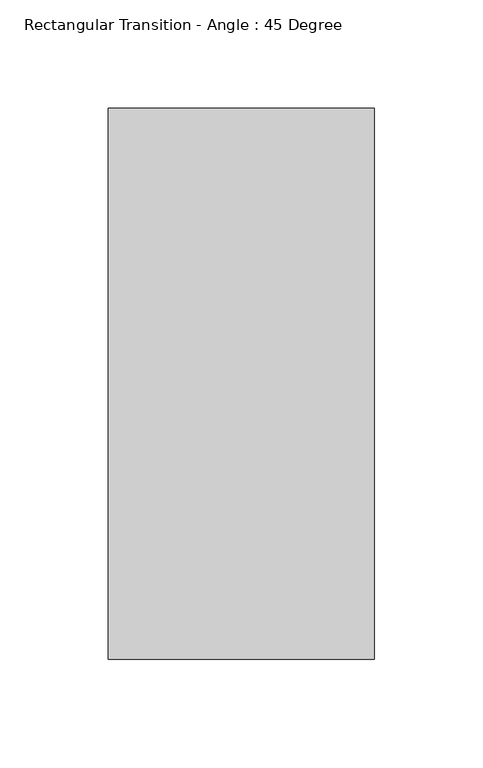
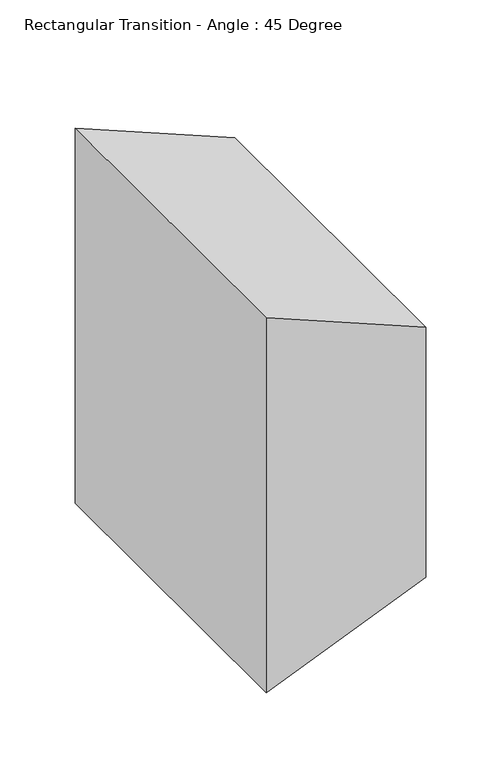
"""IFC4 building model written with IfcOpenShell, lengths in millimetres: duct fitting geometry, Rectangular Transition - Angle : 45 Degree."""

import ifcopenshell
import ifcopenshell.guid

model = None  # the IFC model being written
_history = None  # IfcOwnerHistory: only IFC2X3 demands one
_inside = {}  # id of a spatial element -> (the spatial element, [elements in it])
_under = {}  # id of a project, library or spatial element -> (it, [spatial elements below it])
_declared = {}  # id of a project -> (the project, [libraries it declares])
_typed = {}  # id of a type object -> (the type object, [elements of that type])
_made_of = {}  # id of a material, layer set ... -> (it, [elements and type objects made of it])


def new_model(schema):
    """Start an empty IFC model of exactly this schema.

    Asked for "IFC4X3", IfcOpenShell would pick the latest addendum, in which some entities
    have other attributes; the version numbers below select the first issue.
    IFC2X3 requires an IfcOwnerHistory on every rooted entity: one is made here for all.
    """
    global model, _history
    if schema == "IFC4X3":
        model = ifcopenshell.file(schema_version=(4, 3, 0, 0))
    else:
        model = ifcopenshell.file(schema=schema)
    _inside.clear()
    _under.clear()
    _declared.clear()
    _typed.clear()
    _made_of.clear()
    _history = None
    if model.schema == "IFC2X3":
        org = make("IfcOrganization", Name="unknown")
        user = make(
            "IfcPersonAndOrganization",
            ThePerson=make("IfcPerson", FamilyName="unknown"),
            TheOrganization=org,
        )
        app = make(
            "IfcApplication",
            ApplicationDeveloper=org,
            Version="unknown",
            ApplicationFullName="unknown",
            ApplicationIdentifier="unknown",
        )
        _history = make(
            "IfcOwnerHistory",
            OwningUser=user,
            OwningApplication=app,
            ChangeAction="ADDED",
            CreationDate=0,
        )
    return model


def make(cls, **values):
    """One entity of the class cls with the attributes given. An attribute that is None is left unset."""
    return model.create_entity(
        cls, **{name: value for name, value in values.items() if value is not None}
    )


def rooted(cls, **values):
    """An entity with a GlobalId (a new one), such as an element, a storey or a relation."""
    return make(cls, GlobalId=ifcopenshell.guid.new(), OwnerHistory=_history, **values)


def si_unit(unit_type, name, prefix=None):
    """IfcSIUnit, for example si_unit("LENGTHUNIT", "METRE", prefix="MILLI")."""
    return make("IfcSIUnit", UnitType=unit_type, Prefix=prefix, Name=name)


def assignment(units):
    """IfcUnitAssignment: the units of a project."""
    return None if units is None else make("IfcUnitAssignment", Units=units)


def point(xyz):
    """IfcCartesianPoint."""
    return None if xyz is None else make("IfcCartesianPoint", Coordinates=xyz)


def direction(xyz):
    """IfcDirection."""
    return None if xyz is None else make("IfcDirection", DirectionRatios=xyz)


def frame(location, z_axis=None, x_axis=None):
    """IfcAxis2Placement3D, a coordinate frame: its origin and axes. An axis left out is left unset."""
    return make(
        "IfcAxis2Placement3D",
        Location=point(location),
        Axis=direction(z_axis),
        RefDirection=direction(x_axis),
    )


def origin():
    """The frame at (0, 0, 0) with its axes left unset."""
    return frame((0.0, 0.0, 0.0))


def place(relative_to, where):
    """IfcLocalPlacement: puts the frame where relative to a parent placement (None: the world)."""
    return make(
        "IfcLocalPlacement", PlacementRelTo=relative_to, RelativePlacement=where
    )


def context(
    kind, dimensions, precision=None, world=None, true_north=None, identifier=None
):
    """IfcGeometricRepresentationContext, for example the 3D "Model" context."""
    return make(
        "IfcGeometricRepresentationContext",
        ContextIdentifier=identifier,
        ContextType=kind,
        CoordinateSpaceDimension=dimensions,
        Precision=precision,
        WorldCoordinateSystem=world,
        TrueNorth=true_north,
    )


def project(units=None, contexts=None):
    """IfcProject with its units and contexts."""
    return rooted(
        "IfcProject",
        Name="project",
        RepresentationContexts=contexts,
        UnitsInContext=assignment(units),
    )


def spatial(cls, under=None, at=None, **own):
    """A site, building, storey or space (cls), placed at a placement, below another one or the project."""
    s = rooted(cls, ObjectPlacement=at, **own)
    if under is not None:
        _under.setdefault(under.id(), (under, []))[1].append(s)
    return s


def polyline(points):
    """IfcPolyline through the points."""
    return make("IfcPolyline", Points=[point(p) for p in points])


def outline(outer, holes=None, kind="AREA"):
    """IfcArbitraryClosedProfileDef: a profile drawn as a closed curve; with holes, ...WithVoids."""
    if holes is None:
        return make("IfcArbitraryClosedProfileDef", ProfileType=kind, OuterCurve=outer)
    return make(
        "IfcArbitraryProfileDefWithVoids",
        ProfileType=kind,
        OuterCurve=outer,
        InnerCurves=holes,
    )


def extrude(swept, where, along, depth):
    """IfcExtrudedAreaSolid: the profile swept, set in the frame where, extruded along a direction by depth."""
    return make(
        "IfcExtrudedAreaSolid",
        SweptArea=swept,
        Position=where,
        ExtrudedDirection=direction(along),
        Depth=depth,
    )


def shape(context_of_items, identifier, shape_type, items):
    """IfcShapeRepresentation: the items that make up one representation, for example the "Body"."""
    return make(
        "IfcShapeRepresentation",
        ContextOfItems=context_of_items,
        RepresentationIdentifier=identifier,
        RepresentationType=shape_type,
        Items=items,
    )


def source(mapping_origin, context_of_items, identifier, shape_type, items):
    """IfcRepresentationMap: a shape defined once, which mapped items show again and again."""
    return make(
        "IfcRepresentationMap",
        MappingOrigin=mapping_origin,
        MappedRepresentation=shape(context_of_items, identifier, shape_type, items),
    )


def transform(
    local_origin,
    x_axis=None,
    y_axis=None,
    z_axis=None,
    scale=None,
    scale2=None,
    scale3=None,
    uniform=True,
):
    """IfcCartesianTransformationOperator3D, or its non-uniform kind. x_axis, y_axis, z_axis: its Axis1, 2, 3."""
    if uniform:
        return make(
            "IfcCartesianTransformationOperator3D",
            Axis1=direction(x_axis),
            Axis2=direction(y_axis),
            LocalOrigin=point(local_origin),
            Scale=scale,
            Axis3=direction(z_axis),
        )
    return make(
        "IfcCartesianTransformationOperator3DnonUniform",
        Axis1=direction(x_axis),
        Axis2=direction(y_axis),
        LocalOrigin=point(local_origin),
        Scale=scale,
        Axis3=direction(z_axis),
        Scale2=scale2,
        Scale3=scale3,
    )


def mapped(mapping_source, mapping_target):
    """IfcMappedItem: shows the shape of a source again, moved by a transform."""
    return make(
        "IfcMappedItem", MappingSource=mapping_source, MappingTarget=mapping_target
    )


def made_of(thing, what):
    """Note that an element or type object is made of a material, layer set ...; save() writes the relation."""
    if what is not None:
        _made_of.setdefault(what.id(), (what, []))[1].append(thing)
    return thing


def element(
    cls,
    number,
    at=None,
    inside=None,
    cuts=None,
    type_object=None,
    material=None,
    context=None,
    identifier="Body",
    shape_type=None,
    held_by="IfcProductDefinitionShape",
    body=None,
    shapes=None,
    **own,
):
    """One element of the class cls, such as IfcWall. Its Tag is "e" and its number.

    at: its placement. inside: the storey or other place that contains it. cuts: it is an
    opening in that element (IfcRelVoidsElement). A single representation is given by context,
    identifier, shape_type and body (its items); several are given by shapes. held_by: the class
    of the entity that holds the representations. save() writes the other relations.
    """
    e = rooted(cls, Tag="e%d" % number, ObjectPlacement=at, **own)
    if body is not None:
        shapes = [shape(context, identifier, shape_type, body)]
    if shapes is not None:
        e.Representation = make(held_by, Representations=shapes)
    if inside is not None:
        _inside.setdefault(inside.id(), (inside, []))[1].append(e)
    if cuts is not None:
        rooted(
            "IfcRelVoidsElement", RelatingBuildingElement=cuts, RelatedOpeningElement=e
        )
    if type_object is not None:
        _typed.setdefault(type_object.id(), (type_object, []))[1].append(e)
    return made_of(e, material)


def aggregate(whole, parts):
    """IfcRelAggregates: a whole, such as a stair, and the parts it consists of."""
    return rooted("IfcRelAggregates", RelatingObject=whole, RelatedObjects=parts)


def save(model, path):
    """Write the relations noted so far, then the file.

    IfcRelAggregates (storeys below a building ...), IfcRelContainedInSpatialStructure (elements
    in a storey), IfcRelDefinesByType, IfcRelAssociatesMaterial and IfcRelDeclares: one each for
    every whole, place, type object, material and project.
    """
    for whole, parts in _under.values():
        aggregate(whole, parts)
    for where, things in _inside.values():
        rooted(
            "IfcRelContainedInSpatialStructure",
            RelatedElements=things,
            RelatingStructure=where,
        )
    for kind, things in _typed.values():
        rooted("IfcRelDefinesByType", RelatedObjects=things, RelatingType=kind)
    for what, things in _made_of.values():
        rooted("IfcRelAssociatesMaterial", RelatedObjects=things, RelatingMaterial=what)
    for by, libraries in _declared.values():
        rooted("IfcRelDeclares", RelatingContext=by, RelatedDefinitions=libraries)
    model.write(path)


def rectangular_transition_angle_45_degree_0def93a9(model_context):
    return source(origin(), model_context, "Body", "SweptSolid", [
        extrude(outline(polyline([(152.4, 0.0), (-152.4, 0.0), (-101.6, 122.642049), (101.6, 122.642049), (152.4, 0.0)])), frame((0.0, -127.0, 0.0), z_axis=(0.0, 1.0, 0.0), x_axis=(0.0, 0.0, 1.0)), (0.0, 0.0, 1.0), 254.0),
    ])


if __name__ == "__main__":
    model = new_model("IFC4")
    model_context = context("Model", 3, world=origin())
    ifc_project = project(units=[si_unit("LENGTHUNIT", "METRE", prefix="MILLI")], contexts=[model_context])
    site = spatial("IfcSite", under=ifc_project)
    building = spatial("IfcBuilding", under=site)
    placement = place(None, origin())
    rectangular_transition_angle_45_degree_shape = rectangular_transition_angle_45_degree_0def93a9(model_context)
    element("IfcDuctFitting", 1, ObjectType="Rectangular Transition - Angle : 45 Degree", at=placement, inside=building, context=model_context, shape_type="MappedRepresentation", body=[
        mapped(rectangular_transition_angle_45_degree_shape, transform((0.0, 0.0, 0.0), x_axis=(1.0, 0.0, 0.0), y_axis=(0.0, 1.0, 0.0), z_axis=(0.0, 0.0, 1.0))),
    ])
    save(model, "model.ifc")
